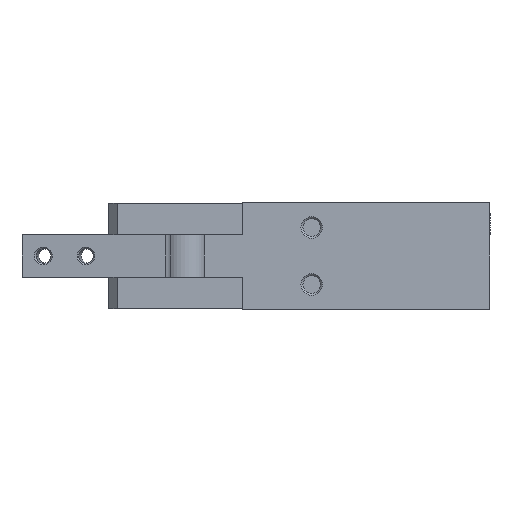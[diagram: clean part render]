
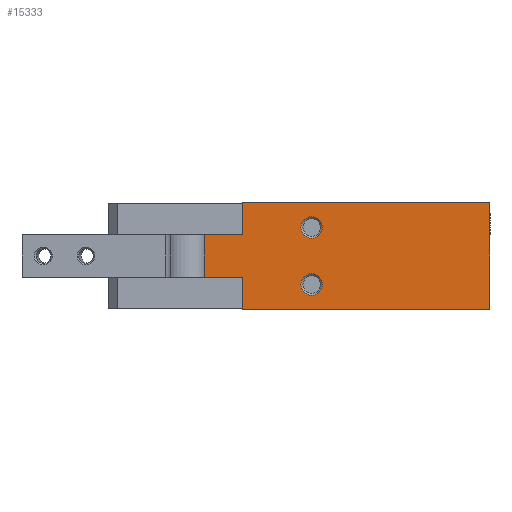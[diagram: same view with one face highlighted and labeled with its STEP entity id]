
A CAD part, front view. The second image highlights one B-rep face of the part: STEP entity #15333.
In plain terms, the highlighted planar face has unit normal (0, -1, 0).
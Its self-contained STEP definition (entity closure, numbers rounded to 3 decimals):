
#39 = EDGE_CURVE ( 'NONE', #12931, #5247, #2951, .T. ) ;
#208 = EDGE_CURVE ( 'NONE', #11404, #9982, #3121, .T. ) ;
#287 = DIRECTION ( 'NONE',  ( -1., 0., 0. ) ) ;
#338 = VECTOR ( 'NONE', #7305, 1000. ) ;
#390 = CARTESIAN_POINT ( 'NONE',  ( 19.4, -29., 5. ) ) ;
#489 = VERTEX_POINT ( 'NONE', #8532 ) ;
#620 = DIRECTION ( 'NONE',  ( 0., -1., 0. ) ) ;
#709 = DIRECTION ( 'NONE',  ( 0., 0., -1. ) ) ;
#763 = ORIENTED_EDGE ( 'NONE', *, *, #4123, .F. ) ;
#1132 = FACE_OUTER_BOUND ( 'NONE', #4958, .T. ) ;
#1354 = VERTEX_POINT ( 'NONE', #16468 ) ;
#1759 = AXIS2_PLACEMENT_3D ( 'NONE', #6318, #16336, #13852 ) ;
#1782 = VECTOR ( 'NONE', #287, 1000. ) ;
#2075 = AXIS2_PLACEMENT_3D ( 'NONE', #12602, #16246, #6225 ) ;
#2430 = LINE ( 'NONE', #5297, #12189 ) ;
#2789 = CARTESIAN_POINT ( 'NONE',  ( 69.4, -29., 15. ) ) ;
#2951 = LINE ( 'NONE', #6100, #338 ) ;
#3116 = CARTESIAN_POINT ( 'NONE',  ( 19.4, -29., -8. ) ) ;
#3121 = LINE ( 'NONE', #3798, #7474 ) ;
#3682 = VECTOR ( 'NONE', #10348, 1000. ) ;
#3798 = CARTESIAN_POINT ( 'NONE',  ( 0., -29., 14.8 ) ) ;
#4060 = DIRECTION ( 'NONE',  ( 0., 0., 1. ) ) ;
#4123 = EDGE_CURVE ( 'NONE', #1354, #9982, #5141, .T. ) ;
#4333 = VERTEX_POINT ( 'NONE', #5381 ) ;
#4411 = VERTEX_POINT ( 'NONE', #10269 ) ;
#4420 = VECTOR ( 'NONE', #709, 1000. ) ;
#4428 = VECTOR ( 'NONE', #14439, 1000. ) ;
#4494 = VERTEX_POINT ( 'NONE', #10652 ) ;
#4516 = ORIENTED_EDGE ( 'NONE', *, *, #208, .T. ) ;
#4893 = VECTOR ( 'NONE', #7713, 1000. ) ;
#4958 = EDGE_LOOP ( 'NONE', ( #6062, #6438, #15123, #4516, #763, #5503, #7300, #15098 ) ) ;
#5140 = CARTESIAN_POINT ( 'NONE',  ( 0., -29., -6. ) ) ;
#5141 = LINE ( 'NONE', #15369, #1782 ) ;
#5193 = EDGE_CURVE ( 'NONE', #5247, #4333, #9686, .T. ) ;
#5218 = CARTESIAN_POINT ( 'NONE',  ( 0., -29., 15. ) ) ;
#5247 = VERTEX_POINT ( 'NONE', #5218 ) ;
#5297 = CARTESIAN_POINT ( 'NONE',  ( 69.4, -29., -6. ) ) ;
#5381 = CARTESIAN_POINT ( 'NONE',  ( 69.4, -29., 15. ) ) ;
#5503 = ORIENTED_EDGE ( 'NONE', *, *, #9300, .F. ) ;
#5746 = CARTESIAN_POINT ( 'NONE',  ( 69.4, -29., 15. ) ) ;
#5877 = EDGE_LOOP ( 'NONE', ( #13331, #14868 ) ) ;
#6062 = ORIENTED_EDGE ( 'NONE', *, *, #6377, .F. ) ;
#6100 = CARTESIAN_POINT ( 'NONE',  ( 0., -29., 15. ) ) ;
#6225 = DIRECTION ( 'NONE',  ( 0., 0., -1. ) ) ;
#6318 = CARTESIAN_POINT ( 'NONE',  ( 19.4, -29., 8. ) ) ;
#6377 = EDGE_CURVE ( 'NONE', #4494, #12931, #12032, .T. ) ;
#6438 = ORIENTED_EDGE ( 'NONE', *, *, #12940, .T. ) ;
#6540 = CARTESIAN_POINT ( 'NONE',  ( 19.4, -29., 11. ) ) ;
#6861 = DIRECTION ( 'NONE',  ( 0., 0., -1. ) ) ;
#7166 = LINE ( 'NONE', #5746, #4420 ) ;
#7278 = CIRCLE ( 'NONE', #1759, 3. ) ;
#7300 = ORIENTED_EDGE ( 'NONE', *, *, #5193, .F. ) ;
#7305 = DIRECTION ( 'NONE',  ( 0., 0., 1. ) ) ;
#7474 = VECTOR ( 'NONE', #12747, 1000. ) ;
#7594 = AXIS2_PLACEMENT_3D ( 'NONE', #2789, #10579, #4060 ) ;
#7713 = DIRECTION ( 'NONE',  ( 1., 0., 0. ) ) ;
#8456 = VERTEX_POINT ( 'NONE', #6540 ) ;
#8532 = CARTESIAN_POINT ( 'NONE',  ( 19.4, -29., -5. ) ) ;
#8914 = VERTEX_POINT ( 'NONE', #13736 ) ;
#9038 = CARTESIAN_POINT ( 'NONE',  ( 69.4, -29., 15. ) ) ;
#9060 = CARTESIAN_POINT ( 'NONE',  ( 69.4, -29., 6. ) ) ;
#9300 = EDGE_CURVE ( 'NONE', #4333, #1354, #7166, .T. ) ;
#9359 = AXIS2_PLACEMENT_3D ( 'NONE', #11582, #15553, #15933 ) ;
#9501 = CARTESIAN_POINT ( 'NONE',  ( 0., -29., -15. ) ) ;
#9619 = EDGE_CURVE ( 'NONE', #489, #4411, #15150, .T. ) ;
#9686 = LINE ( 'NONE', #9038, #4893 ) ;
#9982 = VERTEX_POINT ( 'NONE', #9501 ) ;
#10085 = FACE_BOUND ( 'NONE', #5877, .T. ) ;
#10269 = CARTESIAN_POINT ( 'NONE',  ( 19.4, -29., -11. ) ) ;
#10348 = DIRECTION ( 'NONE',  ( 1., 0., 0. ) ) ;
#10579 = DIRECTION ( 'NONE',  ( 0., 1., 0. ) ) ;
#10652 = CARTESIAN_POINT ( 'NONE',  ( -10.7, -29., 6. ) ) ;
#10731 = ORIENTED_EDGE ( 'NONE', *, *, #9619, .F. ) ;
#11297 = ORIENTED_EDGE ( 'NONE', *, *, #15461, .F. ) ;
#11404 = VERTEX_POINT ( 'NONE', #5140 ) ;
#11575 = AXIS2_PLACEMENT_3D ( 'NONE', #3116, #620, #6861 ) ;
#11582 = CARTESIAN_POINT ( 'NONE',  ( 19.4, -29., -8. ) ) ;
#11658 = CIRCLE ( 'NONE', #11575, 3. ) ;
#11778 = DIRECTION ( 'NONE',  ( -1., 0., 0. ) ) ;
#12032 = LINE ( 'NONE', #9060, #3682 ) ;
#12042 = VERTEX_POINT ( 'NONE', #390 ) ;
#12189 = VECTOR ( 'NONE', #11778, 1000. ) ;
#12602 = CARTESIAN_POINT ( 'NONE',  ( 19.4, -29., 8. ) ) ;
#12747 = DIRECTION ( 'NONE',  ( 0., 0., -1. ) ) ;
#12931 = VERTEX_POINT ( 'NONE', #13228 ) ;
#12940 = EDGE_CURVE ( 'NONE', #4494, #8914, #15981, .T. ) ;
#13228 = CARTESIAN_POINT ( 'NONE',  ( 0., -29., 6. ) ) ;
#13253 = EDGE_CURVE ( 'NONE', #11404, #8914, #2430, .T. ) ;
#13280 = CIRCLE ( 'NONE', #2075, 3. ) ;
#13331 = ORIENTED_EDGE ( 'NONE', *, *, #15145, .F. ) ;
#13736 = CARTESIAN_POINT ( 'NONE',  ( -10.7, -29., -6. ) ) ;
#13852 = DIRECTION ( 'NONE',  ( 0., 0., -1. ) ) ;
#14253 = PLANE ( 'NONE',  #7594 ) ;
#14439 = DIRECTION ( 'NONE',  ( 0., 0., -1. ) ) ;
#14793 = EDGE_LOOP ( 'NONE', ( #11297, #10731 ) ) ;
#14847 = EDGE_CURVE ( 'NONE', #8456, #12042, #7278, .T. ) ;
#14868 = ORIENTED_EDGE ( 'NONE', *, *, #14847, .F. ) ;
#15098 = ORIENTED_EDGE ( 'NONE', *, *, #39, .F. ) ;
#15123 = ORIENTED_EDGE ( 'NONE', *, *, #13253, .F. ) ;
#15145 = EDGE_CURVE ( 'NONE', #12042, #8456, #13280, .T. ) ;
#15150 = CIRCLE ( 'NONE', #9359, 3. ) ;
#15247 = FACE_BOUND ( 'NONE', #14793, .T. ) ;
#15333 = ADVANCED_FACE ( 'NONE', ( #1132, #10085, #15247 ), #14253, .F. ) ;
#15369 = CARTESIAN_POINT ( 'NONE',  ( 69.4, -29., -15. ) ) ;
#15461 = EDGE_CURVE ( 'NONE', #4411, #489, #11658, .T. ) ;
#15553 = DIRECTION ( 'NONE',  ( 0., -1., 0. ) ) ;
#15786 = CARTESIAN_POINT ( 'NONE',  ( -10.7, -29., 0. ) ) ;
#15933 = DIRECTION ( 'NONE',  ( 0., 0., -1. ) ) ;
#15981 = LINE ( 'NONE', #15786, #4428 ) ;
#16246 = DIRECTION ( 'NONE',  ( 0., -1., 0. ) ) ;
#16336 = DIRECTION ( 'NONE',  ( 0., -1., 0. ) ) ;
#16468 = CARTESIAN_POINT ( 'NONE',  ( 69.4, -29., -15. ) ) ;
